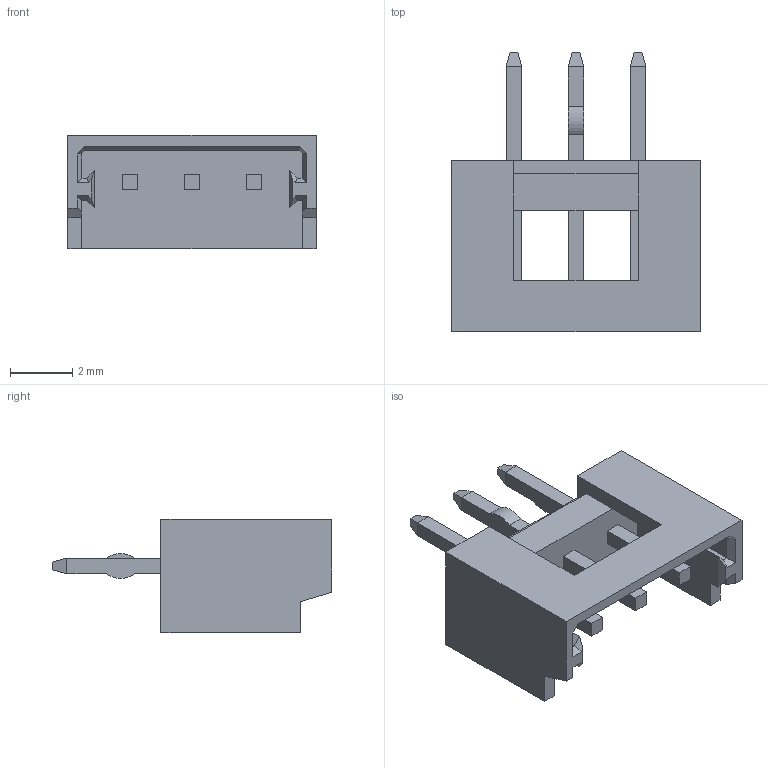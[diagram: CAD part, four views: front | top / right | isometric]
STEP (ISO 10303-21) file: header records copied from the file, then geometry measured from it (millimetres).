
FILE_DESCRIPTION(/* description */ (''),/* implementation_level */ '2;1');
FILE_NAME(/* name */ '532530370wbm000_01_214.stp',/* time_stamp */ '2023-11-29T08:21:34+06:00',/* author */ (''),/* organization */ (''),/* preprocessor_version */ 'ST-DEVELOPER v16.7',/* originating_system */ 'SIEMENS PLM Software NX 1919',/* authorisation */ '');
FILE_SCHEMA (('AUTOMOTIVE_DESIGN { 1 0 10303 214 3 1 1 1 }'));
Length unit declared in the file: millimetre
Products named in the file (1): 532530370wbm000_01
Bounding box: 8 x 9 x 3.65 mm (x, y, z)
Volume: 71.7 mm3; surface area: 242.3 mm2
Topology: 1 solids, 1 shells, 99 faces, 249 edges, 156 vertices
Faces by surface type: plane 96, cylinder 3
Entity records: 2897 total; most frequent: CARTESIAN_POINT 505, ORIENTED_EDGE 498, DIRECTION 455, EDGE_CURVE 249, LINE 243, VECTOR 243, VERTEX_POINT 156, AXIS2_PLACEMENT_3D 106
